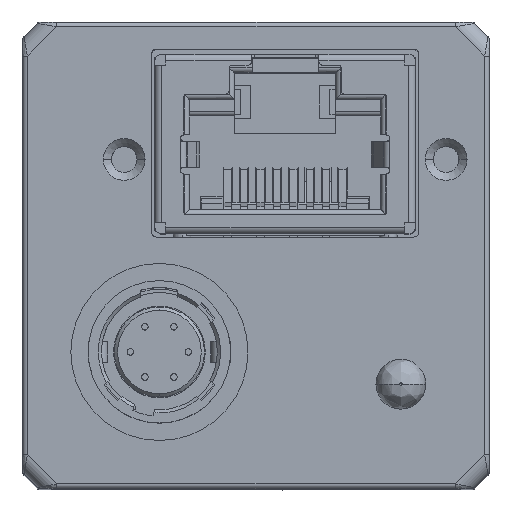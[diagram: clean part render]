
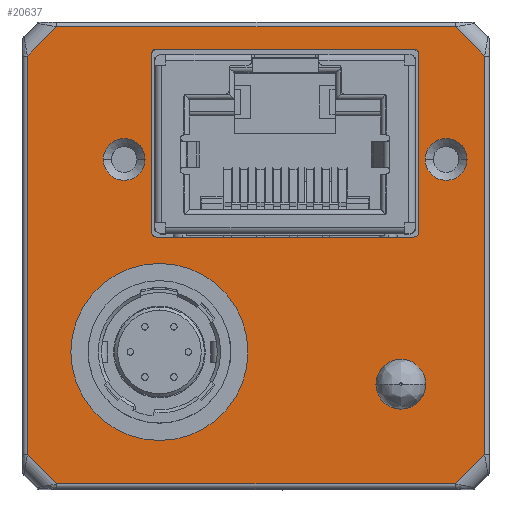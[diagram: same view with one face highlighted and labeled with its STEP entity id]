
A CAD part, top view. The second image highlights one B-rep face of the part: STEP entity #20637.
In plain terms, the highlighted planar face has unit normal (0, 0, 1).
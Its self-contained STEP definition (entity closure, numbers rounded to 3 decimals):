
#230=DIRECTION('',(-1.,0.,0.));
#231=VECTOR('',#230,15.997);
#232=CARTESIAN_POINT('',(9.809,1.141,36.5));
#233=LINE('',#232,#231);
#398=DIRECTION('',(-0.707,-0.707,0.));
#399=VECTOR('',#398,2.566);
#400=CARTESIAN_POINT('',(14.2,-12.386,36.5));
#401=LINE('',#400,#399);
#402=DIRECTION('',(-0.707,0.707,0.));
#403=VECTOR('',#402,2.566);
#404=CARTESIAN_POINT('',(-12.386,-14.2,36.5));
#405=LINE('',#404,#403);
#406=DIRECTION('',(0.707,0.707,0.));
#407=VECTOR('',#406,2.566);
#408=CARTESIAN_POINT('',(-14.2,12.386,36.5));
#409=LINE('',#408,#407);
#410=DIRECTION('',(0.707,-0.707,0.));
#411=VECTOR('',#410,2.566);
#412=CARTESIAN_POINT('',(12.386,14.2,36.5));
#413=LINE('',#412,#411);
#414=CARTESIAN_POINT('',(-6.,-6.,36.5));
#415=DIRECTION('',(0.,0.,1.));
#416=DIRECTION('',(1.,0.,0.));
#417=AXIS2_PLACEMENT_3D('',#414,#415,#416);
#419=CARTESIAN_POINT('',(-6.,-6.,36.5));
#420=DIRECTION('',(0.,0.,1.));
#421=DIRECTION('',(-1.,0.,0.));
#422=AXIS2_PLACEMENT_3D('',#419,#420,#421);
#424=CARTESIAN_POINT('',(-8.19,5.965,36.5));
#425=DIRECTION('',(0.,0.,1.));
#426=DIRECTION('',(-1.,0.,0.));
#427=AXIS2_PLACEMENT_3D('',#424,#425,#426);
#429=CARTESIAN_POINT('',(-8.19,5.965,36.5));
#430=DIRECTION('',(0.,0.,1.));
#431=DIRECTION('',(0.,-1.,0.));
#432=AXIS2_PLACEMENT_3D('',#429,#430,#431);
#434=CARTESIAN_POINT('',(-8.19,5.965,36.5));
#435=DIRECTION('',(0.,0.,1.));
#436=DIRECTION('',(1.,0.,0.));
#437=AXIS2_PLACEMENT_3D('',#434,#435,#436);
#439=CARTESIAN_POINT('',(-8.19,5.965,36.5));
#440=DIRECTION('',(0.,0.,1.));
#441=DIRECTION('',(0.,1.,0.));
#442=AXIS2_PLACEMENT_3D('',#439,#440,#441);
#444=CARTESIAN_POINT('',(11.81,5.965,36.5));
#445=DIRECTION('',(0.,0.,1.));
#446=DIRECTION('',(-1.,0.,0.));
#447=AXIS2_PLACEMENT_3D('',#444,#445,#446);
#449=CARTESIAN_POINT('',(11.81,5.965,36.5));
#450=DIRECTION('',(0.,0.,1.));
#451=DIRECTION('',(0.,-1.,0.));
#452=AXIS2_PLACEMENT_3D('',#449,#450,#451);
#454=CARTESIAN_POINT('',(11.81,5.965,36.5));
#455=DIRECTION('',(0.,0.,1.));
#456=DIRECTION('',(1.,0.,0.));
#457=AXIS2_PLACEMENT_3D('',#454,#455,#456);
#459=CARTESIAN_POINT('',(11.81,5.965,36.5));
#460=DIRECTION('',(0.,0.,1.));
#461=DIRECTION('',(0.,1.,0.));
#462=AXIS2_PLACEMENT_3D('',#459,#460,#461);
#464=DIRECTION('',(0.,-1.,0.));
#465=VECTOR('',#464,11.067);
#466=CARTESIAN_POINT('',(-6.489,12.509,36.5));
#467=LINE('',#466,#465);
#468=CARTESIAN_POINT('',(-6.189,1.441,36.5));
#469=DIRECTION('',(0.,0.,1.));
#470=DIRECTION('',(-1.,0.,0.));
#471=AXIS2_PLACEMENT_3D('',#468,#469,#470);
#473=CARTESIAN_POINT('',(9.809,1.441,36.5));
#474=DIRECTION('',(0.,0.,1.));
#475=DIRECTION('',(0.,-1.,0.));
#476=AXIS2_PLACEMENT_3D('',#473,#474,#475);
#478=DIRECTION('',(0.,1.,0.));
#479=VECTOR('',#478,11.067);
#480=CARTESIAN_POINT('',(10.109,1.441,36.5));
#481=LINE('',#480,#479);
#482=CARTESIAN_POINT('',(9.809,12.509,36.5));
#483=DIRECTION('',(0.,0.,1.));
#484=DIRECTION('',(1.,0.,0.));
#485=AXIS2_PLACEMENT_3D('',#482,#483,#484);
#487=DIRECTION('',(-1.,0.,0.));
#488=VECTOR('',#487,15.997);
#489=CARTESIAN_POINT('',(9.809,12.809,36.5));
#490=LINE('',#489,#488);
#491=CARTESIAN_POINT('',(-6.189,12.509,36.5));
#492=DIRECTION('',(0.,0.,1.));
#493=DIRECTION('',(0.,1.,0.));
#494=AXIS2_PLACEMENT_3D('',#491,#492,#493);
#496=CARTESIAN_POINT('',(9.,-8.,36.5));
#497=DIRECTION('',(0.,0.,1.));
#498=DIRECTION('',(1.,0.,0.));
#499=AXIS2_PLACEMENT_3D('',#496,#497,#498);
#501=CARTESIAN_POINT('',(9.,-8.,36.5));
#502=DIRECTION('',(0.,0.,1.));
#503=DIRECTION('',(-1.,0.,0.));
#504=AXIS2_PLACEMENT_3D('',#501,#502,#503);
#506=DIRECTION('',(0.,1.,0.));
#507=VECTOR('',#506,24.772);
#508=CARTESIAN_POINT('',(14.2,-12.386,36.5));
#509=LINE('',#508,#507);
#658=DIRECTION('',(-1.,0.,0.));
#659=VECTOR('',#658,24.772);
#660=CARTESIAN_POINT('',(12.386,14.2,36.5));
#661=LINE('',#660,#659);
#701=DIRECTION('',(0.,-1.,0.));
#702=VECTOR('',#701,24.772);
#703=CARTESIAN_POINT('',(-14.2,12.386,36.5));
#704=LINE('',#703,#702);
#783=DIRECTION('',(1.,0.,0.));
#784=VECTOR('',#783,24.772);
#785=CARTESIAN_POINT('',(-12.386,-14.2,36.5));
#786=LINE('',#785,#784);
#15831=CARTESIAN_POINT('',(9.809,1.141,36.5));
#15832=CARTESIAN_POINT('',(-6.189,1.141,36.5));
#15833=VERTEX_POINT('',#15831);
#15834=VERTEX_POINT('',#15832);
#15923=CARTESIAN_POINT('',(14.2,-12.386,36.5));
#15924=CARTESIAN_POINT('',(14.2,12.386,36.5));
#15925=VERTEX_POINT('',#15923);
#15926=VERTEX_POINT('',#15924);
#15927=CARTESIAN_POINT('',(12.386,-14.2,36.5));
#15928=VERTEX_POINT('',#15927);
#15929=CARTESIAN_POINT('',(-12.386,-14.2,36.5));
#15930=VERTEX_POINT('',#15929);
#15931=CARTESIAN_POINT('',(-14.2,-12.386,36.5));
#15932=VERTEX_POINT('',#15931);
#15933=CARTESIAN_POINT('',(-14.2,12.386,36.5));
#15934=VERTEX_POINT('',#15933);
#15935=CARTESIAN_POINT('',(-12.386,14.2,36.5));
#15936=VERTEX_POINT('',#15935);
#15937=CARTESIAN_POINT('',(12.386,14.2,36.5));
#15938=VERTEX_POINT('',#15937);
#15939=CARTESIAN_POINT('',(-0.5,-6.,36.5));
#15940=CARTESIAN_POINT('',(-11.5,-6.,36.5));
#15941=VERTEX_POINT('',#15939);
#15942=VERTEX_POINT('',#15940);
#15943=CARTESIAN_POINT('',(-9.49,5.965,36.5));
#15944=CARTESIAN_POINT('',(-8.19,4.665,36.5));
#15945=VERTEX_POINT('',#15943);
#15946=VERTEX_POINT('',#15944);
#15947=CARTESIAN_POINT('',(-6.89,5.965,36.5));
#15948=VERTEX_POINT('',#15947);
#15949=CARTESIAN_POINT('',(-8.19,7.265,36.5));
#15950=VERTEX_POINT('',#15949);
#15951=CARTESIAN_POINT('',(10.51,5.965,36.5));
#15952=CARTESIAN_POINT('',(11.81,4.665,36.5));
#15953=VERTEX_POINT('',#15951);
#15954=VERTEX_POINT('',#15952);
#15955=CARTESIAN_POINT('',(13.11,5.965,36.5));
#15956=VERTEX_POINT('',#15955);
#15957=CARTESIAN_POINT('',(11.81,7.265,36.5));
#15958=VERTEX_POINT('',#15957);
#15959=CARTESIAN_POINT('',(-6.489,12.509,36.5));
#15960=CARTESIAN_POINT('',(-6.489,1.441,36.5));
#15961=VERTEX_POINT('',#15959);
#15962=VERTEX_POINT('',#15960);
#15963=CARTESIAN_POINT('',(10.109,1.441,36.5));
#15964=VERTEX_POINT('',#15963);
#15965=CARTESIAN_POINT('',(10.109,12.509,36.5));
#15966=VERTEX_POINT('',#15965);
#15967=CARTESIAN_POINT('',(9.809,12.809,36.5));
#15968=VERTEX_POINT('',#15967);
#15969=CARTESIAN_POINT('',(-6.189,12.809,36.5));
#15970=VERTEX_POINT('',#15969);
#15971=CARTESIAN_POINT('',(10.55,-8.,36.5));
#15972=CARTESIAN_POINT('',(7.45,-8.,36.5));
#15973=VERTEX_POINT('',#15971);
#15974=VERTEX_POINT('',#15972);
#20565=CARTESIAN_POINT('',(0.,0.,36.5));
#20566=DIRECTION('',(0.,0.,1.));
#20567=DIRECTION('',(1.,0.,0.));
#20568=AXIS2_PLACEMENT_3D('',#20565,#20566,#20567);
#20569=PLANE('',#20568);
#20571=ORIENTED_EDGE('',*,*,#20570,.F.);
#20573=ORIENTED_EDGE('',*,*,#20572,.T.);
#20575=ORIENTED_EDGE('',*,*,#20574,.F.);
#20577=ORIENTED_EDGE('',*,*,#20576,.T.);
#20579=ORIENTED_EDGE('',*,*,#20578,.F.);
#20581=ORIENTED_EDGE('',*,*,#20580,.T.);
#20583=ORIENTED_EDGE('',*,*,#20582,.F.);
#20585=ORIENTED_EDGE('',*,*,#20584,.T.);
#20586=EDGE_LOOP('',(#20571,#20573,#20575,#20577,#20579,#20581,#20583,#20585));
#20587=FACE_OUTER_BOUND('',#20586,.F.);
#20589=ORIENTED_EDGE('',*,*,#20588,.T.);
#20591=ORIENTED_EDGE('',*,*,#20590,.T.);
#20592=EDGE_LOOP('',(#20589,#20591));
#20593=FACE_BOUND('',#20592,.F.);
#20595=ORIENTED_EDGE('',*,*,#20594,.T.);
#20597=ORIENTED_EDGE('',*,*,#20596,.T.);
#20599=ORIENTED_EDGE('',*,*,#20598,.T.);
#20601=ORIENTED_EDGE('',*,*,#20600,.T.);
#20602=EDGE_LOOP('',(#20595,#20597,#20599,#20601));
#20603=FACE_BOUND('',#20602,.F.);
#20605=ORIENTED_EDGE('',*,*,#20604,.T.);
#20607=ORIENTED_EDGE('',*,*,#20606,.T.);
#20609=ORIENTED_EDGE('',*,*,#20608,.T.);
#20611=ORIENTED_EDGE('',*,*,#20610,.T.);
#20612=EDGE_LOOP('',(#20605,#20607,#20609,#20611));
#20613=FACE_BOUND('',#20612,.F.);
#20615=ORIENTED_EDGE('',*,*,#20614,.T.);
#20617=ORIENTED_EDGE('',*,*,#20616,.T.);
#20618=ORIENTED_EDGE('',*,*,#20443,.F.);
#20620=ORIENTED_EDGE('',*,*,#20619,.T.);
#20622=ORIENTED_EDGE('',*,*,#20621,.T.);
#20624=ORIENTED_EDGE('',*,*,#20623,.T.);
#20626=ORIENTED_EDGE('',*,*,#20625,.T.);
#20628=ORIENTED_EDGE('',*,*,#20627,.T.);
#20629=EDGE_LOOP('',(#20615,#20617,#20618,#20620,#20622,#20624,#20626,#20628));
#20630=FACE_BOUND('',#20629,.F.);
#20632=ORIENTED_EDGE('',*,*,#20631,.T.);
#20634=ORIENTED_EDGE('',*,*,#20633,.T.);
#20635=EDGE_LOOP('',(#20632,#20634));
#20636=FACE_BOUND('',#20635,.F.);
#20637=ADVANCED_FACE('',(#20587,#20593,#20603,#20613,#20630,#20636),#20569,.T.);
#418=CIRCLE('',#417,5.5);
#423=CIRCLE('',#422,5.5);
#428=CIRCLE('',#427,1.3);
#433=CIRCLE('',#432,1.3);
#438=CIRCLE('',#437,1.3);
#443=CIRCLE('',#442,1.3);
#448=CIRCLE('',#447,1.3);
#453=CIRCLE('',#452,1.3);
#458=CIRCLE('',#457,1.3);
#463=CIRCLE('',#462,1.3);
#472=CIRCLE('',#471,0.3);
#477=CIRCLE('',#476,0.3);
#486=CIRCLE('',#485,0.3);
#495=CIRCLE('',#494,0.3);
#500=CIRCLE('',#499,1.55);
#505=CIRCLE('',#504,1.55);
#20443=EDGE_CURVE('',#15833,#15834,#233,.T.);
#20570=EDGE_CURVE('',#15925,#15926,#509,.T.);
#20572=EDGE_CURVE('',#15925,#15928,#401,.T.);
#20574=EDGE_CURVE('',#15930,#15928,#786,.T.);
#20576=EDGE_CURVE('',#15930,#15932,#405,.T.);
#20578=EDGE_CURVE('',#15934,#15932,#704,.T.);
#20580=EDGE_CURVE('',#15934,#15936,#409,.T.);
#20582=EDGE_CURVE('',#15938,#15936,#661,.T.);
#20584=EDGE_CURVE('',#15938,#15926,#413,.T.);
#20588=EDGE_CURVE('',#15941,#15942,#418,.T.);
#20590=EDGE_CURVE('',#15942,#15941,#423,.T.);
#20594=EDGE_CURVE('',#15945,#15946,#428,.T.);
#20596=EDGE_CURVE('',#15946,#15948,#433,.T.);
#20598=EDGE_CURVE('',#15948,#15950,#438,.T.);
#20600=EDGE_CURVE('',#15950,#15945,#443,.T.);
#20604=EDGE_CURVE('',#15953,#15954,#448,.T.);
#20606=EDGE_CURVE('',#15954,#15956,#453,.T.);
#20608=EDGE_CURVE('',#15956,#15958,#458,.T.);
#20610=EDGE_CURVE('',#15958,#15953,#463,.T.);
#20614=EDGE_CURVE('',#15961,#15962,#467,.T.);
#20616=EDGE_CURVE('',#15962,#15834,#472,.T.);
#20619=EDGE_CURVE('',#15833,#15964,#477,.T.);
#20621=EDGE_CURVE('',#15964,#15966,#481,.T.);
#20623=EDGE_CURVE('',#15966,#15968,#486,.T.);
#20625=EDGE_CURVE('',#15968,#15970,#490,.T.);
#20627=EDGE_CURVE('',#15970,#15961,#495,.T.);
#20631=EDGE_CURVE('',#15973,#15974,#500,.T.);
#20633=EDGE_CURVE('',#15974,#15973,#505,.T.);
